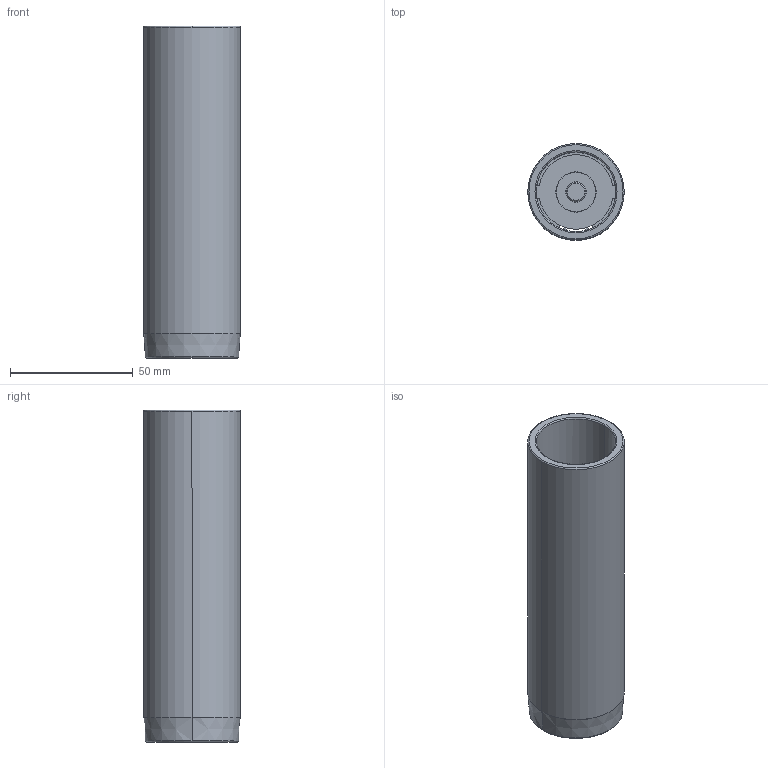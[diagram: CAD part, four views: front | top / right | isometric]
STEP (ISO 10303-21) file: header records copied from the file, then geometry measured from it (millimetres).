
FILE_DESCRIPTION((''),'2;1');
FILE_NAME('C12_032_135.stp','2009-01-28T09:50:58',(''),(''),'Mechanical Desktop 2009','Mechanical Desktop 2009',', , ');
FILE_SCHEMA(('CONFIG_CONTROL_DESIGN'));
Length unit declared in the file: millimetre
Products named in the file (2): Product; blmdl1
Assembly tree (1 placements, depth 2):
  Product
    blmdl1
Bounding box: 39.25 x 39.25 x 135 mm (x, y, z)
Volume: 54679 mm3; surface area: 35834.3 mm2
Topology: 5 solids, 5 shells, 79 faces, 200 edges, 134 vertices
Faces by surface type: cylinder 34, plane 29, torus 10, cone 6
Entity records: 2585 total; most frequent: DIRECTION 480, CARTESIAN_POINT 435, ORIENTED_EDGE 400, AXIS2_PLACEMENT_3D 203, EDGE_CURVE 200, VERTEX_POINT 134, CIRCLE 122, EDGE_LOOP 92
